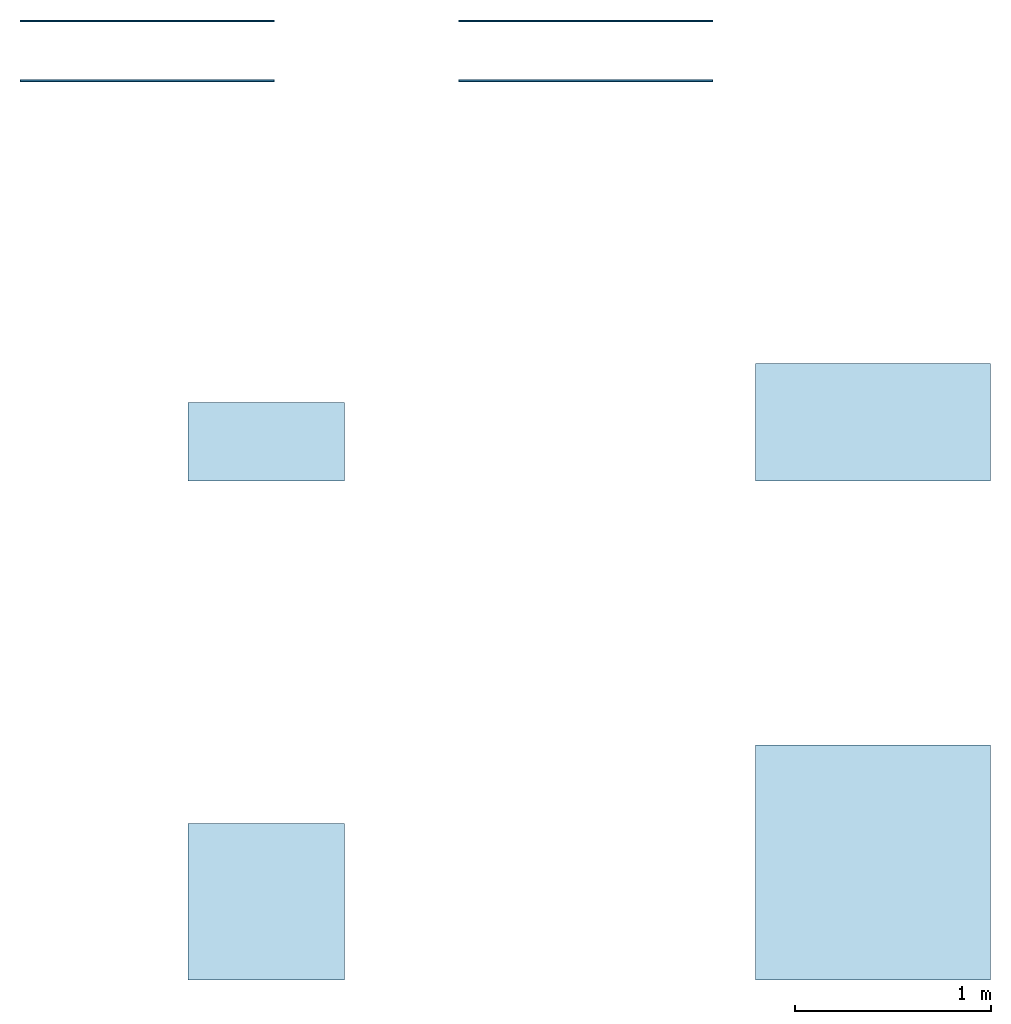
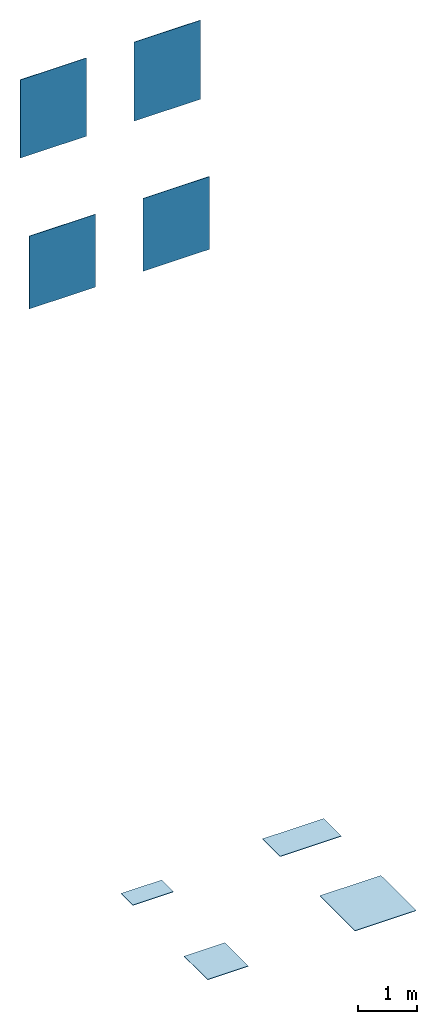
# One storey: 4 slabs, 4 walls.
"""IFC2X3 building model written with IfcOpenShell, lengths in millimetres."""

from ifc_helpers import new_model, entity, si_unit, converted_unit, derived_unit, direction, frame, frame_2d, origin, origin_2d_with_axis, place, context, subcontext, project, spatial, rectangle, extrude, material, layer, layer_set, layer_usage, type_object, element, save


model = new_model("IFC2X3")

# Units and contexts
model_context = context("Model", 3, precision=0.01, world=origin(), true_north=direction((6.12303176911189e-17, 1.0)))
body_context = subcontext(model_context, "Body", "Model", "MODEL_VIEW")
ifc_project = project(units=[si_unit("LENGTHUNIT", "METRE", prefix="MILLI"), si_unit("AREAUNIT", "SQUARE_METRE"), si_unit("VOLUMEUNIT", "CUBIC_METRE"), converted_unit("PLANEANGLEUNIT", "DEGREE", entity("IfcRatioMeasure", 0.0174532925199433), si_unit("PLANEANGLEUNIT", "RADIAN"), dimensions=[0, 0, 0, 0, 0, 0, 0]), si_unit("MASSUNIT", "GRAM", prefix="KILO"), derived_unit("MASSDENSITYUNIT", [(si_unit("MASSUNIT", "GRAM", prefix="KILO"), 1), (si_unit("LENGTHUNIT", "METRE"), -3)]), derived_unit("MOMENTOFINERTIAUNIT", [(si_unit("LENGTHUNIT", "METRE"), 4)]), si_unit("TIMEUNIT", "SECOND"), si_unit("FREQUENCYUNIT", "HERTZ"), si_unit("THERMODYNAMICTEMPERATUREUNIT", "DEGREE_CELSIUS"), derived_unit("THERMALTRANSMITTANCEUNIT", [(si_unit("MASSUNIT", "GRAM", prefix="KILO"), 1), (si_unit("THERMODYNAMICTEMPERATUREUNIT", "KELVIN"), -1), (si_unit("TIMEUNIT", "SECOND"), -3)]), derived_unit("VOLUMETRICFLOWRATEUNIT", [(si_unit("LENGTHUNIT", "METRE"), 3), (si_unit("TIMEUNIT", "SECOND"), -1)]), si_unit("ELECTRICCURRENTUNIT", "AMPERE"), si_unit("ELECTRICVOLTAGEUNIT", "VOLT"), si_unit("POWERUNIT", "WATT"), si_unit("FORCEUNIT", "NEWTON", prefix="KILO"), si_unit("ILLUMINANCEUNIT", "LUX"), si_unit("LUMINOUSFLUXUNIT", "LUMEN"), si_unit("LUMINOUSINTENSITYUNIT", "CANDELA"), derived_unit("USERDEFINED", [(si_unit("MASSUNIT", "GRAM", prefix="KILO"), -1), (si_unit("LENGTHUNIT", "METRE"), -2), (si_unit("TIMEUNIT", "SECOND"), 3), (si_unit("LUMINOUSFLUXUNIT", "LUMEN"), 1)]), derived_unit("LINEARVELOCITYUNIT", [(si_unit("LENGTHUNIT", "METRE"), 1), (si_unit("TIMEUNIT", "SECOND"), -1)]), si_unit("PRESSUREUNIT", "PASCAL"), derived_unit("USERDEFINED", [(si_unit("LENGTHUNIT", "METRE"), -2), (si_unit("MASSUNIT", "GRAM", prefix="KILO"), 1), (si_unit("TIMEUNIT", "SECOND"), -2)]), derived_unit("LINEARFORCEUNIT", [(si_unit("MASSUNIT", "GRAM", prefix="KILO"), 1), (si_unit("LENGTHUNIT", "METRE"), 1), (si_unit("TIMEUNIT", "SECOND"), -2), (si_unit("LENGTHUNIT", "METRE"), -1)]), derived_unit("PLANARFORCEUNIT", [(si_unit("MASSUNIT", "GRAM", prefix="KILO"), 1), (si_unit("LENGTHUNIT", "METRE"), 1), (si_unit("TIMEUNIT", "SECOND"), -2), (si_unit("LENGTHUNIT", "METRE"), -2)])], contexts=[model_context])

# Site, building, storey
site_placement = place(None, origin())
site = spatial("IfcSite", under=ifc_project, at=site_placement, Name="Default", CompositionType="ELEMENT")
building_placement = place(site_placement, origin())
building = spatial("IfcBuilding", under=site, at=building_placement, CompositionType="ELEMENT")
storey_placement = place(building_placement, origin())
storey = spatial("IfcBuildingStorey", under=building, at=storey_placement, Name="Level 0", CompositionType="ELEMENT", Elevation=0.0)

# Slabs
ifc_material_1 = material(Name="Affrescati-Calce-40x80 OI66")
ifc_layer_1 = layer(ifc_material_1, 9.0)
ifc_material_2 = material(Name="<Unnamed>")
ifc_layer_2 = layer(ifc_material_2, 1.0)
ifc_layer_set_1 = layer_set([ifc_layer_1, ifc_layer_2], Name="Floor:Floor_Tiles_Refin-Affrescati-Calce-40x80 OI66")
ifc_layer_usage_1 = layer_usage(ifc_layer_set_1, "AXIS3", "POSITIVE", 0.0)
slab_type_1 = type_object("IfcSlabType", Name="Floor:Floor_Tiles_Refin-Affrescati-Calce-40x80 OI66", PredefinedType="FLOOR", material=ifc_layer_set_1)
slab_1_placement = place(storey_placement, origin())
element("IfcSlab", 1, at=slab_1_placement, inside=storey, type_object=slab_type_1, material=ifc_layer_usage_1, Name="Floor:Floor_Tiles_Refin-Affrescati-Calce-40x80 OI66", ObjectType="Floor:Floor_Tiles_Refin-Affrescati-Calce-40x80 OI66", PredefinedType="FLOOR", context=body_context, shape_type="SweptSolid", body=[
    extrude(rectangle(XDim=400.0, YDim=800.0, at=origin_2d_with_axis()), frame((7174.37520617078, 5988.41920639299, 0.0), z_axis=(0.0, 0.0, -1.0), x_axis=(0.0, 1.0, 0.0)), (0.0, 0.0, 1.0), 10.0),
])
ifc_material_3 = material(Name="Affrescati-Calce-60x120 OI01")
ifc_layer_3 = layer(ifc_material_3, 9.0)
ifc_layer_4 = layer(ifc_material_2, 1.0)
ifc_layer_set_2 = layer_set([ifc_layer_3, ifc_layer_4], Name="Floor:Floor_Tiles_Refin-Affrescati-Calce-60x120 OI01")
ifc_layer_usage_2 = layer_usage(ifc_layer_set_2, "AXIS3", "POSITIVE", 0.0)
slab_type_2 = type_object("IfcSlabType", Name="Floor:Floor_Tiles_Refin-Affrescati-Calce-60x120 OI01", PredefinedType="FLOOR", material=ifc_layer_set_2)
slab_2_placement = place(storey_placement, origin())
element("IfcSlab", 2, at=slab_2_placement, inside=storey, type_object=slab_type_2, material=ifc_layer_usage_2, Name="Floor:Floor_Tiles_Refin-Affrescati-Calce-60x120 OI01", ObjectType="Floor:Floor_Tiles_Refin-Affrescati-Calce-60x120 OI01", PredefinedType="FLOOR", context=body_context, shape_type="SweptSolid", body=[
    extrude(rectangle(XDim=600.0, YDim=1200.0, at=origin_2d_with_axis()), frame((10274.3752061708, 6088.41920639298, 0.0), z_axis=(0.0, 0.0, -1.0), x_axis=(0.0, 1.0, 0.0)), (0.0, 0.0, 1.0), 10.0),
])
ifc_material_4 = material(Name="Affrescati-Calce-80x80 OH98")
ifc_layer_5 = layer(ifc_material_4, 9.0)
ifc_layer_6 = layer(ifc_material_2, 1.0)
ifc_layer_set_3 = layer_set([ifc_layer_5, ifc_layer_6], Name="Floor:Floor_Tiles_Refin-Affrescati-Calce-80x80 OH98")
ifc_layer_usage_3 = layer_usage(ifc_layer_set_3, "AXIS3", "POSITIVE", 0.0)
slab_type_3 = type_object("IfcSlabType", Name="Floor:Floor_Tiles_Refin-Affrescati-Calce-80x80 OH98", PredefinedType="FLOOR", material=ifc_layer_set_3)
slab_3_placement = place(storey_placement, origin())
element("IfcSlab", 3, at=slab_3_placement, inside=storey, type_object=slab_type_3, material=ifc_layer_usage_3, Name="Floor:Floor_Tiles_Refin-Affrescati-Calce-80x80 OH98", ObjectType="Floor:Floor_Tiles_Refin-Affrescati-Calce-80x80 OH98", PredefinedType="FLOOR", context=body_context, shape_type="SweptSolid", body=[
    extrude(rectangle(XDim=800.0, YDim=800.0, at=origin_2d_with_axis()), frame((7174.37520617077, 3638.41920639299, 0.0), z_axis=(0.0, 0.0, -1.0), x_axis=(0.0, 1.0, 0.0)), (0.0, 0.0, 1.0), 10.0),
])
ifc_material_5 = material(Name="Affrescati-Calce-120x120 OG65")
ifc_layer_7 = layer(ifc_material_5, 9.0)
ifc_layer_8 = layer(ifc_material_2, 1.0)
ifc_layer_set_4 = layer_set([ifc_layer_7, ifc_layer_8], Name="Floor:Floor_Tiles_Refin-Affrescati-Calce-120x120 OG65")
ifc_layer_usage_4 = layer_usage(ifc_layer_set_4, "AXIS3", "POSITIVE", 0.0)
slab_type_4 = type_object("IfcSlabType", Name="Floor:Floor_Tiles_Refin-Affrescati-Calce-120x120 OG65", PredefinedType="FLOOR", material=ifc_layer_set_4)
slab_4_placement = place(storey_placement, origin())
element("IfcSlab", 4, at=slab_4_placement, inside=storey, type_object=slab_type_4, material=ifc_layer_usage_4, Name="Floor:Floor_Tiles_Refin-Affrescati-Calce-120x120 OG65", ObjectType="Floor:Floor_Tiles_Refin-Affrescati-Calce-120x120 OG65", PredefinedType="FLOOR", context=body_context, shape_type="SweptSolid", body=[
    extrude(rectangle(XDim=1200.0, YDim=1200.0, at=origin_2d_with_axis()), frame((10274.3752061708, 3838.41920639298, 0.0), z_axis=(0.0, 0.0, -1.0), x_axis=(0.0, 1.0, 0.0)), (0.0, 0.0, 1.0), 10.0),
])

# Walls
ifc_layer_9 = layer(ifc_material_2, 1.0)
ifc_layer_10 = layer(ifc_material_3, 9.0)
ifc_layer_set_5 = layer_set([ifc_layer_9, ifc_layer_10], Name="Basic Wall:Wall_Tiles_Refin-Affrescati-Calce-60x120 OI01")
ifc_layer_usage_5 = layer_usage(ifc_layer_set_5, "AXIS2", "NEGATIVE", 5.0)
wall_type_1 = type_object("IfcWallType", Name="Basic Wall:Wall_Tiles_Refin-Affrescati-Calce-60x120 OI01", PredefinedType="STANDARD", material=ifc_layer_set_5)
wall_1_placement = place(storey_placement, frame((8157.37520617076, 8137.38386313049, 14387.6770443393)))
element("IfcWallStandardCase", 5, at=wall_1_placement, inside=storey, type_object=wall_type_1, material=ifc_layer_usage_5, Name="Basic Wall:Wall_Tiles_Refin-Affrescati-Calce-60x120 OI01", ObjectType="Basic Wall:Wall_Tiles_Refin-Affrescati-Calce-60x120 OI01", context=body_context, shape_type="SweptSolid", body=[
    extrude(rectangle(XDim=1300.0, YDim=9.99999999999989, at=frame_2d((650.0, 7.63833440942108e-14), x_axis=(-1.0, 0.0))), origin(), (0.0, 0.0, 1.0), 1641.74173522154),
])
ifc_layer_11 = layer(ifc_material_2, 1.0)
ifc_layer_12 = layer(ifc_material_1, 9.0)
ifc_layer_set_6 = layer_set([ifc_layer_11, ifc_layer_12], Name="Basic Wall:Wall_Tiles_Refin-Affrescati-Calce-40x80 OI66")
ifc_layer_usage_6 = layer_usage(ifc_layer_set_6, "AXIS2", "NEGATIVE", 5.0)
wall_type_2 = type_object("IfcWallType", Name="Basic Wall:Wall_Tiles_Refin-Affrescati-Calce-40x80 OI66", PredefinedType="STANDARD", material=ifc_layer_set_6)
wall_2_placement = place(storey_placement, frame((5917.37520617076, 8137.38386313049, 14403.726734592)))
element("IfcWallStandardCase", 6, at=wall_2_placement, inside=storey, type_object=wall_type_2, material=ifc_layer_usage_6, Name="Basic Wall:Wall_Tiles_Refin-Affrescati-Calce-40x80 OI66", ObjectType="Basic Wall:Wall_Tiles_Refin-Affrescati-Calce-40x80 OI66", context=body_context, shape_type="SweptSolid", body=[
    extrude(rectangle(XDim=1300.0, YDim=9.99999999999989, at=frame_2d((650.0, 7.63833440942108e-14), x_axis=(-1.0, 0.0))), origin(), (0.0, 0.0, 1.0), 1625.69204496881),
])
ifc_layer_13 = layer(ifc_material_2, 1.0)
ifc_layer_14 = layer(ifc_material_4, 9.0)
ifc_layer_set_7 = layer_set([ifc_layer_13, ifc_layer_14], Name="Basic Wall:Wall_Tiles_Refin-Affrescati-Calce-80x80 OH98")
ifc_layer_usage_7 = layer_usage(ifc_layer_set_7, "AXIS2", "NEGATIVE", 5.0)
wall_type_3 = type_object("IfcWallType", Name="Basic Wall:Wall_Tiles_Refin-Affrescati-Calce-80x80 OH98", PredefinedType="STANDARD", material=ifc_layer_set_7)
wall_3_placement = place(storey_placement, frame((5917.37520617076, 7832.38386313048, 11452.5436262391)))
element("IfcWallStandardCase", 7, at=wall_3_placement, inside=storey, type_object=wall_type_3, material=ifc_layer_usage_7, Name="Basic Wall:Wall_Tiles_Refin-Affrescati-Calce-80x80 OH98", ObjectType="Basic Wall:Wall_Tiles_Refin-Affrescati-Calce-80x80 OH98", context=body_context, shape_type="SweptSolid", body=[
    extrude(rectangle(XDim=1300.0, YDim=9.99999999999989, at=frame_2d((650.0, 0.0), x_axis=(-1.0, 0.0))), origin(), (0.0, 0.0, 1.0), 1513.19855655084),
])
ifc_layer_15 = layer(ifc_material_2, 1.0)
ifc_layer_16 = layer(ifc_material_5, 9.0)
ifc_layer_set_8 = layer_set([ifc_layer_15, ifc_layer_16], Name="Basic Wall:Wall_Tiles_Refin-Affrescati-Calce-120x120 OG65")
ifc_layer_usage_8 = layer_usage(ifc_layer_set_8, "AXIS2", "NEGATIVE", 5.0)
wall_type_4 = type_object("IfcWallType", Name="Basic Wall:Wall_Tiles_Refin-Affrescati-Calce-120x120 OG65", PredefinedType="STANDARD", material=ifc_layer_set_8)
wall_4_placement = place(storey_placement, frame((8157.37520617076, 7832.38386313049, 11452.5436262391)))
element("IfcWallStandardCase", 8, at=wall_4_placement, inside=storey, type_object=wall_type_4, material=ifc_layer_usage_8, Name="Basic Wall:Wall_Tiles_Refin-Affrescati-Calce-120x120 OG65", ObjectType="Basic Wall:Wall_Tiles_Refin-Affrescati-Calce-120x120 OG65", context=body_context, shape_type="SweptSolid", body=[
    extrude(rectangle(XDim=1300.0, YDim=9.99999999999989, at=frame_2d((650.0, 0.0), x_axis=(-1.0, 0.0))), origin(), (0.0, 0.0, 1.0), 1513.19855655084),
])

save(model, "model.ifc")
